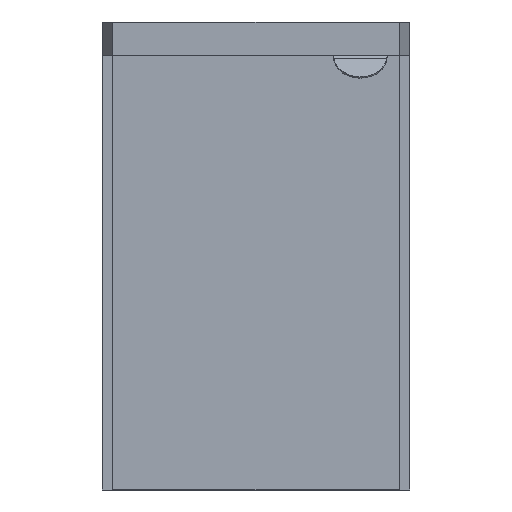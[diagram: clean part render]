
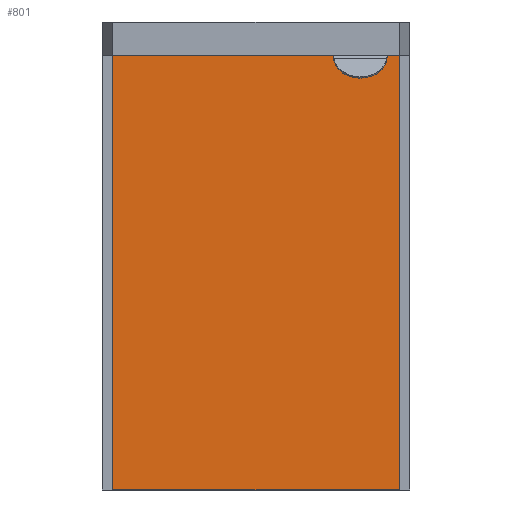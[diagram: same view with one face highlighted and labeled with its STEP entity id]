
A CAD part, front view. The second image highlights one B-rep face of the part: STEP entity #801.
In plain terms, the highlighted planar face has unit normal (0, -1, 0).
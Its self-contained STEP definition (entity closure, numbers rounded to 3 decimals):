
#15=ELLIPSE('',#855,31.4,20.);
#17=ELLIPSE('',#857,31.4,20.);
#60=LINE('',#1219,#163);
#61=LINE('',#1221,#164);
#62=LINE('',#1223,#165);
#63=LINE('',#1225,#166);
#64=LINE('',#1227,#167);
#65=LINE('',#1228,#168);
#163=VECTOR('',#981,39.909);
#164=VECTOR('',#982,164.95);
#165=VECTOR('',#983,324.6);
#166=VECTOR('',#984,213.9);
#167=VECTOR('',#985,324.6);
#168=VECTOR('',#986,8.95);
#236=PLANE('',#858);
#287=FACE_OUTER_BOUND('',#332,.T.);
#332=EDGE_LOOP('',(#627,#628,#629,#630,#631,#632,#633,#634));
#407=VERTEX_POINT('',#1210);
#408=VERTEX_POINT('',#1211);
#409=VERTEX_POINT('',#1213);
#410=VERTEX_POINT('',#1215);
#411=VERTEX_POINT('',#1220);
#412=VERTEX_POINT('',#1222);
#413=VERTEX_POINT('',#1224);
#414=VERTEX_POINT('',#1226);
#492=EDGE_CURVE('',#407,#409,#15,.T.);
#494=EDGE_CURVE('',#410,#408,#17,.T.);
#495=EDGE_CURVE('',#407,#408,#60,.T.);
#496=EDGE_CURVE('',#410,#411,#61,.T.);
#497=EDGE_CURVE('',#411,#412,#62,.T.);
#498=EDGE_CURVE('',#412,#413,#63,.T.);
#499=EDGE_CURVE('',#413,#414,#64,.T.);
#500=EDGE_CURVE('',#414,#409,#65,.T.);
#627=ORIENTED_EDGE('',*,*,#495,.T.);
#628=ORIENTED_EDGE('',*,*,#494,.F.);
#629=ORIENTED_EDGE('',*,*,#496,.T.);
#630=ORIENTED_EDGE('',*,*,#497,.T.);
#631=ORIENTED_EDGE('',*,*,#498,.T.);
#632=ORIENTED_EDGE('',*,*,#499,.T.);
#633=ORIENTED_EDGE('',*,*,#500,.T.);
#634=ORIENTED_EDGE('',*,*,#492,.F.);
#801=ADVANCED_FACE('',(#287),#236,.T.);
#855=AXIS2_PLACEMENT_3D('',#1214,#973,#974);
#857=AXIS2_PLACEMENT_3D('',#1217,#977,#978);
#858=AXIS2_PLACEMENT_3D('',#1218,#979,#980);
#973=DIRECTION('center_axis',(0.,-1.,0.));
#974=DIRECTION('ref_axis',(0.,0.,-1.));
#977=DIRECTION('center_axis',(0.,-1.,0.));
#978=DIRECTION('ref_axis',(0.,0.,-1.));
#979=DIRECTION('center_axis',(0.,-1.,0.));
#980=DIRECTION('ref_axis',(0.,0.,-1.));
#981=DIRECTION('',(-1.,0.,0.));
#982=DIRECTION('',(-1.,0.,0.));
#983=DIRECTION('',(0.,0.,-1.));
#984=DIRECTION('',(1.,0.,0.));
#985=DIRECTION('',(0.,0.,1.));
#986=DIRECTION('',(-1.,0.,0.));
#1210=CARTESIAN_POINT('',(97.954,0.,322.679));
#1211=CARTESIAN_POINT('',(58.046,0.,322.679));
#1213=CARTESIAN_POINT('',(98.,0.,324.8));
#1214=CARTESIAN_POINT('Origin',(78.,0.,324.8));
#1215=CARTESIAN_POINT('',(58.,0.,324.8));
#1217=CARTESIAN_POINT('Origin',(78.,0.,324.8));
#1218=CARTESIAN_POINT('Origin',(0.,0.,162.5));
#1219=CARTESIAN_POINT('',(39.,0.,322.679));
#1220=CARTESIAN_POINT('',(-106.95,0.,324.8));
#1221=CARTESIAN_POINT('',(-106.95,0.,324.8));
#1222=CARTESIAN_POINT('',(-106.95,0.,0.2));
#1223=CARTESIAN_POINT('',(-106.95,0.,0.2));
#1224=CARTESIAN_POINT('',(106.95,0.,0.2));
#1225=CARTESIAN_POINT('',(106.95,0.,0.2));
#1226=CARTESIAN_POINT('',(106.95,0.,324.8));
#1227=CARTESIAN_POINT('',(106.95,0.,324.8));
#1228=CARTESIAN_POINT('',(-106.95,0.,324.8));
